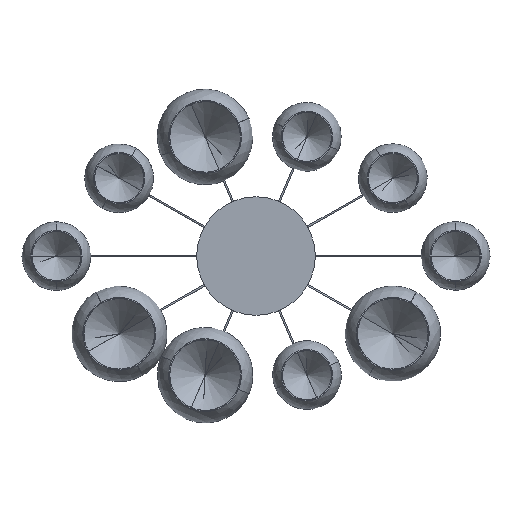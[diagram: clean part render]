
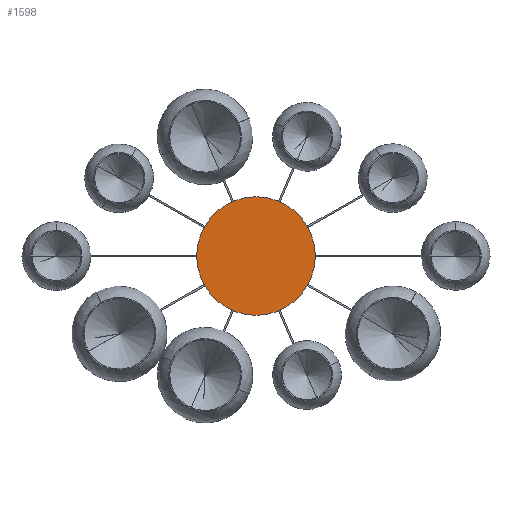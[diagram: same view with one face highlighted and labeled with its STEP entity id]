
A CAD part, front view. The second image highlights one B-rep face of the part: STEP entity #1598.
In plain terms, the highlighted planar face has unit normal (0, -1, 0).
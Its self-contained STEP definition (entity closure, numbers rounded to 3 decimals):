
#1061 = FACE_OUTER_BOUND ( 'NONE', #4575, .T. ) ;
#1598 = ADVANCED_FACE ( 'NONE', ( #1061 ), #3428, .F. ) ;
#1939 = CARTESIAN_POINT ( 'NONE',  ( 0., 0., 0. ) ) ;
#2240 = DIRECTION ( 'NONE',  ( 0., 1., 0. ) ) ;
#2544 = ORIENTED_EDGE ( 'NONE', *, *, #8283, .F. ) ;
#3362 = VERTEX_POINT ( 'NONE', #7827 ) ;
#3428 = PLANE ( 'NONE',  #3487 ) ;
#3479 = DIRECTION ( 'NONE',  ( 0., 1., 0. ) ) ;
#3487 = AXIS2_PLACEMENT_3D ( 'NONE', #5441, #3479, #6833 ) ;
#3976 = CIRCLE ( 'NONE', #4980, 155. ) ;
#4247 = VERTEX_POINT ( 'NONE', #8878 ) ;
#4409 = CIRCLE ( 'NONE', #7649, 155. ) ;
#4575 = EDGE_LOOP ( 'NONE', ( #2544, #6201 ) ) ;
#4980 = AXIS2_PLACEMENT_3D ( 'NONE', #7309, #2240, #5729 ) ;
#5418 = DIRECTION ( 'NONE',  ( 0., 1., 0. ) ) ;
#5441 = CARTESIAN_POINT ( 'NONE',  ( 0., 0., 0. ) ) ;
#5565 = DIRECTION ( 'NONE',  ( 0., 0., 1. ) ) ;
#5729 = DIRECTION ( 'NONE',  ( 0., 0., 1. ) ) ;
#6201 = ORIENTED_EDGE ( 'NONE', *, *, #7222, .F. ) ;
#6833 = DIRECTION ( 'NONE',  ( 0., 0., 1. ) ) ;
#7222 = EDGE_CURVE ( 'NONE', #3362, #4247, #3976, .T. ) ;
#7309 = CARTESIAN_POINT ( 'NONE',  ( 0., 0., 0. ) ) ;
#7649 = AXIS2_PLACEMENT_3D ( 'NONE', #1939, #5418, #5565 ) ;
#7827 = CARTESIAN_POINT ( 'NONE',  ( 0., 0., 155. ) ) ;
#8283 = EDGE_CURVE ( 'NONE', #4247, #3362, #4409, .T. ) ;
#8878 = CARTESIAN_POINT ( 'NONE',  ( 0., 0., -155. ) ) ;
